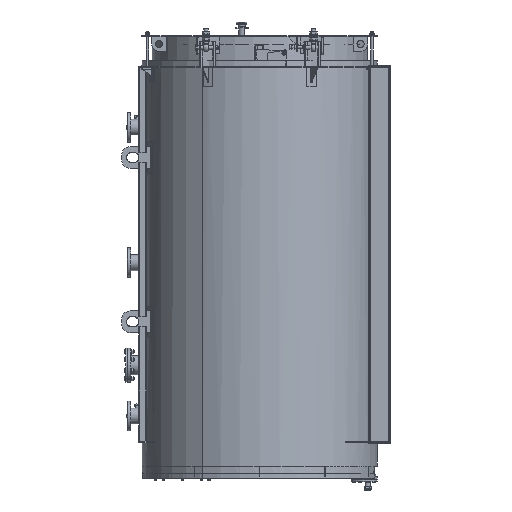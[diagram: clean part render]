
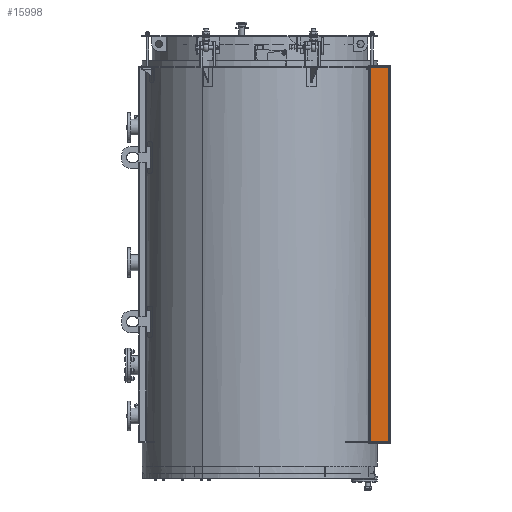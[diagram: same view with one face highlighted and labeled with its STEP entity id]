
A CAD part, left-side view. The second image highlights one B-rep face of the part: STEP entity #15998.
In plain terms, the highlighted planar face has unit normal (-1, 0, 0).
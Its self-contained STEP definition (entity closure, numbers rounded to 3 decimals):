
#15998=ADVANCED_FACE('',(#44189),#44191,.T.);
#44189=FACE_BOUND('',#44190,.T.);
#44190=EDGE_LOOP('',(#67277,#67278,#67279,#67280));
#44191=PLANE('',#44192);
#44192=AXIS2_PLACEMENT_3D('',#44193,#44194,#44195);
#44193=CARTESIAN_POINT('',(-585.1,-917.7,-3128.));
#44194=DIRECTION('',(-1.,0.,0.));
#44195=DIRECTION('',(0.,-1.,0.));
#67277=ORIENTED_EDGE('',*,*,#78646,.T.);
#67278=ORIENTED_EDGE('',*,*,#78647,.T.);
#67279=ORIENTED_EDGE('',*,*,#78648,.F.);
#67280=ORIENTED_EDGE('',*,*,#78649,.F.);
#78646=EDGE_CURVE('',#89124,#89125,#89126,.T.);
#78647=EDGE_CURVE('',#89125,#89127,#89128,.T.);
#78648=EDGE_CURVE('',#89129,#89127,#89130,.T.);
#78649=EDGE_CURVE('',#89124,#89129,#89131,.T.);
#89124=VERTEX_POINT('',#123983);
#89125=VERTEX_POINT('',#123984);
#89126=LINE('',#123985,#123986);
#89127=VERTEX_POINT('',#123988);
#89128=LINE('',#123989,#123990);
#89129=VERTEX_POINT('',#123992);
#89130=LINE('',#123993,#123994);
#89131=LINE('',#123996,#123997);
#123983=CARTESIAN_POINT('',(-585.1,-917.7,-3128.));
#123984=CARTESIAN_POINT('',(-585.1,-1062.3,-3128.));
#123985=CARTESIAN_POINT('',(-585.1,-917.7,-3128.));
#123986=VECTOR('',#123987,1.);
#123987=DIRECTION('',(0.,-1.,0.));
#123988=CARTESIAN_POINT('',(-585.1,-1062.3,7.));
#123989=CARTESIAN_POINT('',(-585.1,-1062.3,-3128.));
#123990=VECTOR('',#123991,1.);
#123991=DIRECTION('',(0.,0.,1.));
#123992=CARTESIAN_POINT('',(-585.1,-917.7,7.));
#123993=CARTESIAN_POINT('',(-585.1,-917.7,7.));
#123994=VECTOR('',#123995,1.);
#123995=DIRECTION('',(0.,-1.,0.));
#123996=CARTESIAN_POINT('',(-585.1,-917.7,-3128.));
#123997=VECTOR('',#123998,1.);
#123998=DIRECTION('',(0.,0.,1.));
